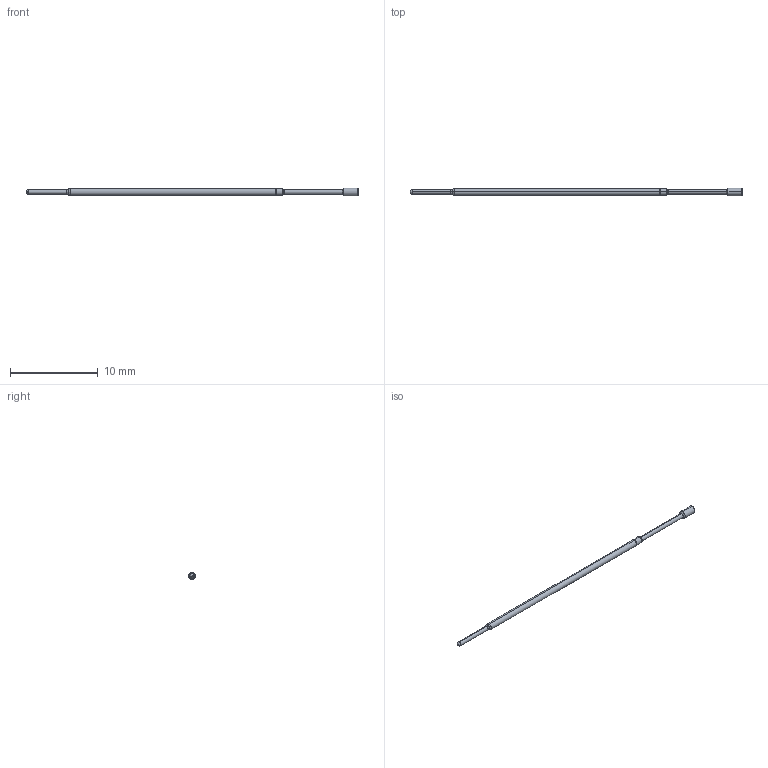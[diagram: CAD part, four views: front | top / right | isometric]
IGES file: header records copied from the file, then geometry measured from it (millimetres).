
Start section: SolidWorks IGES file using analytic representation for surfaces
Global section: file name: C:\Documents and Settings\mrumschlag\Desktop\changes\new\test\F.IGS; native system: SolidWorks 2011; preprocessor: SolidWorks 2011; author: mrumschlag; date: 110630.142723; units: inch
Bounding box: 37.93 x 0.89 x 0.89 mm (x, y, z)
Surface area: 83.6 mm2 (no closed solid volume)
Topology: 0 solids, 0 shells, 30 faces, 164 edges, 162 vertices
Faces by surface type: revolution 20, bspline 10
